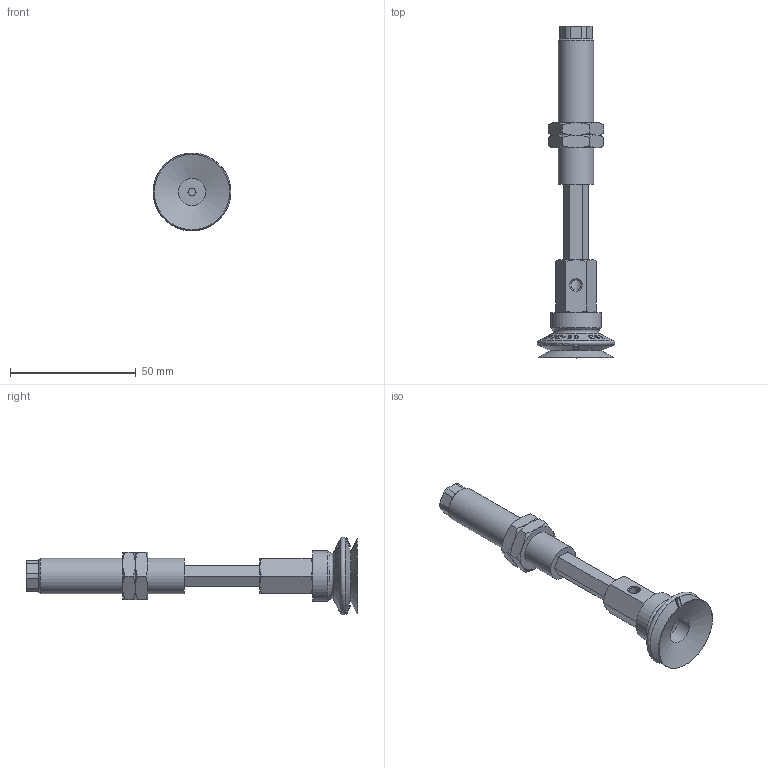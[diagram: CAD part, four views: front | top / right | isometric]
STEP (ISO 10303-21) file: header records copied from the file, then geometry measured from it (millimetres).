
FILE_DESCRIPTION(('STEP AP214'),'1');
FILE_NAME('.stp','2026-01-21T07:15:45',(' '),(' '),'Spatial InterOp 3D',' ',' ');
FILE_SCHEMA(('AUTOMOTIVE_DESIGN { 1 0 10303 214 1 1 1 1 }'));
Length unit declared in the file: millimetre
Products named in the file (7): BNABPJYH-30-30-※; BPJG-30-※; Adapter-30-NAPJ; CONNECTOR_H-30-30; NAPJH-30-30-NUT; NAPJYH-30-30-FBODY; NAPJYH-30-30-MBODY
Assembly tree (7 placements, depth 2):
  BNABPJYH-30-30-※
    BPJG-30-※
    Adapter-30-NAPJ
    CONNECTOR_H-30-30
    NAPJH-30-30-NUT  x2
    NAPJYH-30-30-FBODY
    NAPJYH-30-30-MBODY
Bounding box: 30.99 x 132 x 30.99 mm (x, y, z)
Volume: 21807.5 mm3; surface area: 15838.6 mm2
Topology: 7 solids, 7 shells, 792 faces, 2197 edges, 1442 vertices
Faces by surface type: plane 687, cone 70, cylinder 28, torus 7
Full cylindrical faces by diameter (mm): 3 x2, 4.134 x2, 4.917 x1, 5 x1, 5.8 x1, 6 x1, 10.8 x1, 11 x1, 13.188 x2, 14 x1, 20 x1
Entity records: 31710 total; most frequent: CARTESIAN_POINT 7850, ORIENTED_EDGE 4224, DIRECTION 2685, EDGE_CURVE 2112, VERTEX_POINT 1409, B_SPLINE_CURVE_WITH_KNOTS 1083, LINE 927, VECTOR 927
